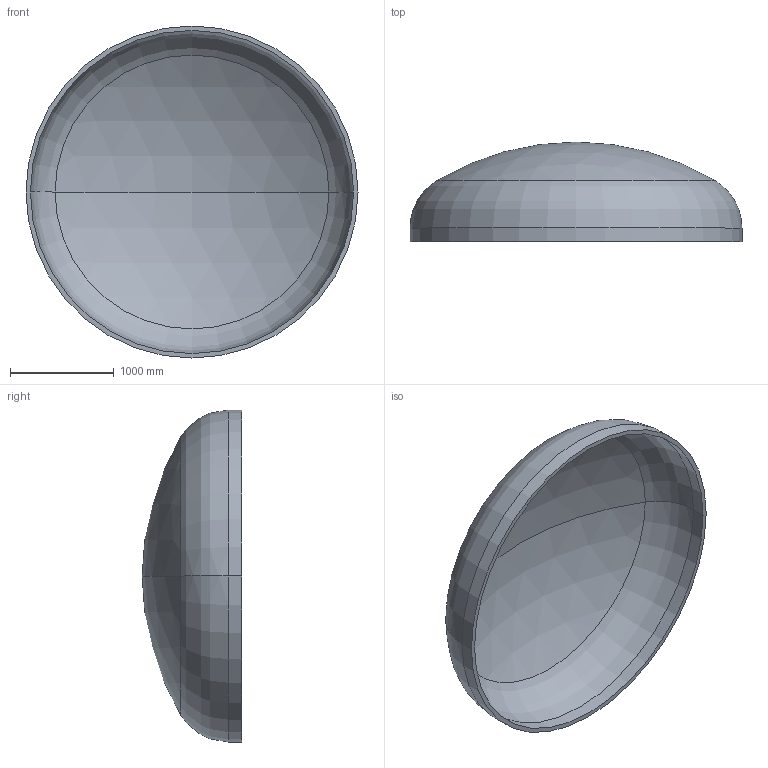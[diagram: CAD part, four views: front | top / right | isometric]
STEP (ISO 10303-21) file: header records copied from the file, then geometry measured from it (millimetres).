
FILE_DESCRIPTION (( 'STEP AP203' ), '1' );
FILE_NAME ('DIN 28013 Korbbogenform_-_Boden DIN 28013 - 3200 x 130 - I - s=43.step', '2016-07-01T18:38:17', ( '' ), ( '' ), 'SwSTEP 2.0', 'SolidWorks 2013', '' );
FILE_SCHEMA (( 'CONFIG_CONTROL_DESIGN' ));
Length unit declared in the file: millimetre
Products named in the file (1): DIN 28013 Korbbogenform_-_Boden DIN 28013 - 3200 x 130 - I - s=43
Bounding box: 3200 x 959.19 x 3200 mm (x, y, z)
Volume: 525449413 mm3; surface area: 24869845.8 mm2
Topology: 1 solids, 1 shells, 13 faces, 24 edges, 14 vertices
Faces by surface type: torus 4, cylinder 4, sphere 4, plane 1
Entity records: 407 total; most frequent: DIRECTION 72, CARTESIAN_POINT 52, ORIENTED_EDGE 48, AXIS2_PLACEMENT_3D 34, EDGE_CURVE 24, CIRCLE 20, VERTEX_POINT 14, EDGE_LOOP 14
